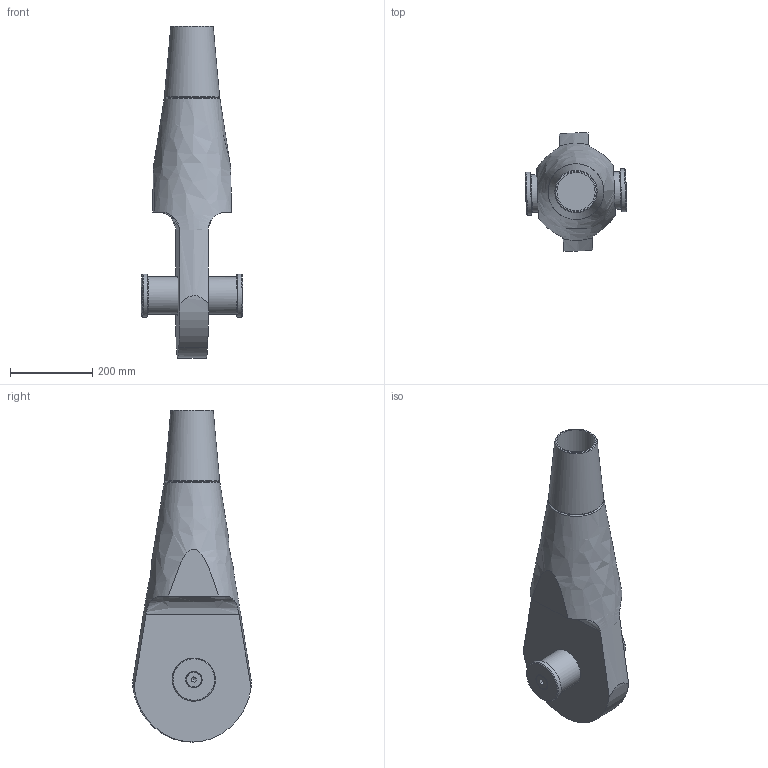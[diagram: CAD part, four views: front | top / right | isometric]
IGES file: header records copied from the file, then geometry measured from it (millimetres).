
Global section: file name: 520-090-OES; native system: Autodesk Inventor 2016; preprocessor: unknown; author: Administrator; date: 20200626.104027; units: centimetre
Bounding box: 247.65 x 288.47 x 808.49 mm (x, y, z)
Volume: 15409005.9 mm3; surface area: 619857.8 mm2
Topology: 2 solids, 6 shells, 68 faces, 170 edges, 116 vertices
Faces by surface type: bspline 68
